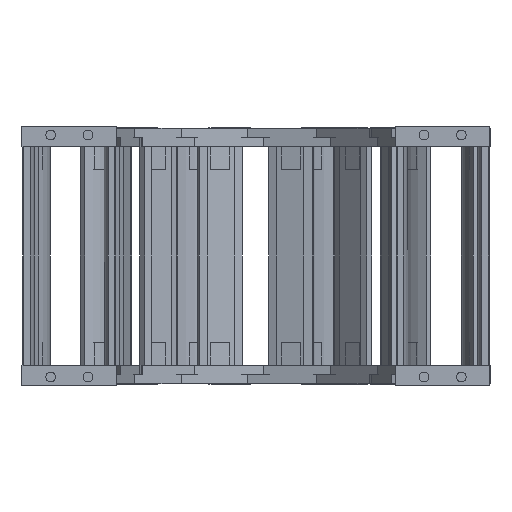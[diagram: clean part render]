
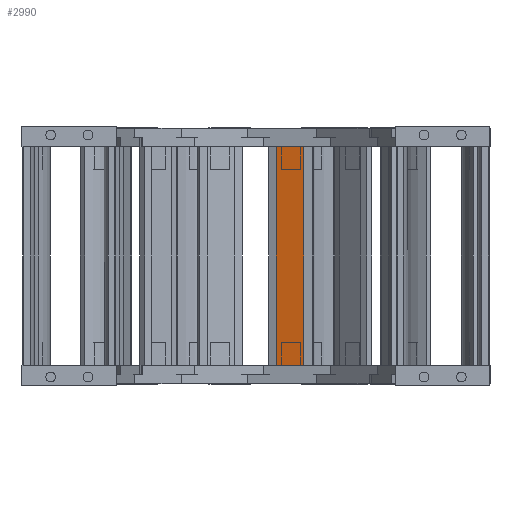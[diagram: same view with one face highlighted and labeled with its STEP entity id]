
A CAD part, left-side view. The second image highlights one B-rep face of the part: STEP entity #2990.
In plain terms, the highlighted planar face has unit normal (-0.967, 0.255, 0) as drawn and (0, -1, 0) by its records, which use the part's own axes.
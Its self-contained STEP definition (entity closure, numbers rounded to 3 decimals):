
#2823=DIRECTION('',(0.,0.,-1.));
#2824=VECTOR('',#2823,175.4);
#2825=CARTESIAN_POINT('',(-11.5,-72.,37.5));
#2826=LINE('',#2825,#2824);
#2852=DIRECTION('',(1.,0.,0.));
#2853=VECTOR('',#2852,23.);
#2854=CARTESIAN_POINT('',(-11.5,-72.,37.5));
#2855=LINE('',#2854,#2853);
#2909=DIRECTION('',(-1.,0.,0.));
#2910=VECTOR('',#2909,23.);
#2911=CARTESIAN_POINT('',(11.5,-72.,-137.9));
#2912=LINE('',#2911,#2910);
#2937=DIRECTION('',(0.,0.,-1.));
#2938=VECTOR('',#2937,175.4);
#2939=CARTESIAN_POINT('',(11.5,-72.,37.5));
#2940=LINE('',#2939,#2938);
#2957=CARTESIAN_POINT('',(11.5,-72.,-137.9));
#2958=VERTEX_POINT('',#2957);
#2959=CARTESIAN_POINT('',(-11.5,-72.,-137.9));
#2960=VERTEX_POINT('',#2959);
#2969=CARTESIAN_POINT('',(11.5,-72.,37.5));
#2970=VERTEX_POINT('',#2969);
#2973=CARTESIAN_POINT('',(-11.5,-72.,37.5));
#2974=VERTEX_POINT('',#2973);
#2975=CARTESIAN_POINT('',(15.5,-72.,-137.9));
#2976=DIRECTION('',(0.,1.,0.));
#2977=DIRECTION('',(-1.,0.,0.));
#2978=AXIS2_PLACEMENT_3D('',#2975,#2976,#2977);
#2979=PLANE('',#2978);
#2981=ORIENTED_EDGE('',*,*,#2980,.F.);
#2983=ORIENTED_EDGE('',*,*,#2982,.T.);
#2985=ORIENTED_EDGE('',*,*,#2984,.T.);
#2987=ORIENTED_EDGE('',*,*,#2986,.T.);
#2988=EDGE_LOOP('',(#2981,#2983,#2985,#2987));
#2989=FACE_OUTER_BOUND('',#2988,.F.);
#2990=ADVANCED_FACE('',(#2989),#2979,.F.);
#2980=EDGE_CURVE('',#2974,#2960,#2826,.T.);
#2982=EDGE_CURVE('',#2974,#2970,#2855,.T.);
#2984=EDGE_CURVE('',#2970,#2958,#2940,.T.);
#2986=EDGE_CURVE('',#2958,#2960,#2912,.T.);
